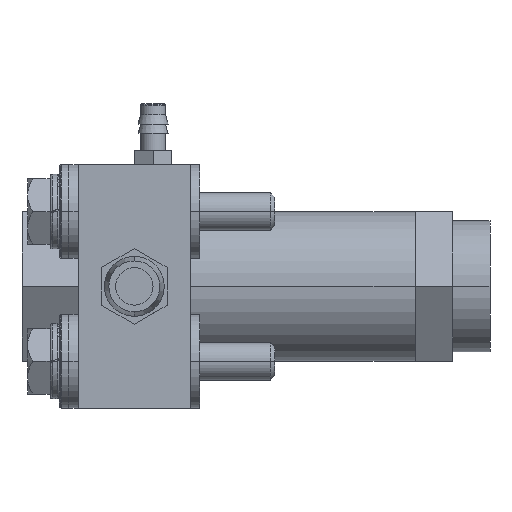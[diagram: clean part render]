
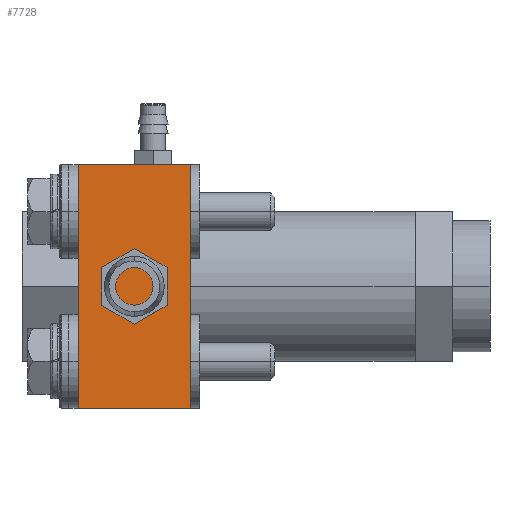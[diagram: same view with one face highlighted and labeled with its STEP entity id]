
A CAD part, front view. The second image highlights one B-rep face of the part: STEP entity #7728.
In plain terms, the highlighted planar face has unit normal (0, -1, 0).
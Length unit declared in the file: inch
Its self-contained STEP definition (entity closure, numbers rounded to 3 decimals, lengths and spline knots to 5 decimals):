
#7325=DIRECTION('',(0.,0.,-1.));
#7326=VECTOR('',#7325,1.625);
#7327=CARTESIAN_POINT('',(-2.,-1.25,0.8125));
#7328=LINE('',#7327,#7326);
#7433=DIRECTION('',(1.,0.,0.));
#7434=VECTOR('',#7433,0.75);
#7435=CARTESIAN_POINT('',(-2.75,-1.25,-0.8125));
#7436=LINE('',#7435,#7434);
#7437=DIRECTION('',(0.,0.,-1.));
#7438=VECTOR('',#7437,1.625);
#7439=CARTESIAN_POINT('',(-2.75,-1.25,0.8125));
#7440=LINE('',#7439,#7438);
#7441=DIRECTION('',(-1.,0.,0.));
#7442=VECTOR('',#7441,0.75);
#7443=CARTESIAN_POINT('',(-2.,-1.25,0.8125));
#7444=LINE('',#7443,#7442);
#7445=CARTESIAN_POINT('',(-2.,-1.25,0.8125));
#7446=CARTESIAN_POINT('',(-2.,-1.25,-0.8125));
#7447=VERTEX_POINT('',#7445);
#7448=VERTEX_POINT('',#7446);
#7451=CARTESIAN_POINT('',(-2.75,-1.25,0.8125));
#7452=VERTEX_POINT('',#7451);
#7453=CARTESIAN_POINT('',(-2.75,-1.25,-0.8125));
#7454=VERTEX_POINT('',#7453);
#7717=CARTESIAN_POINT('',(-2.75,-1.25,-0.8125));
#7718=DIRECTION('',(0.,-1.,0.));
#7719=DIRECTION('',(-1.,0.,0.));
#7720=AXIS2_PLACEMENT_3D('',#7717,#7718,#7719);
#7721=PLANE('',#7720);
#7722=ORIENTED_EDGE('',*,*,#7514,.T.);
#7723=ORIENTED_EDGE('',*,*,#7686,.F.);
#7724=ORIENTED_EDGE('',*,*,#7572,.F.);
#7725=ORIENTED_EDGE('',*,*,#7710,.F.);
#7726=EDGE_LOOP('',(#7722,#7723,#7724,#7725));
#7727=FACE_OUTER_BOUND('',#7726,.F.);
#7514=EDGE_CURVE('',#7447,#7448,#7328,.T.);
#7572=EDGE_CURVE('',#7452,#7454,#7440,.T.);
#7686=EDGE_CURVE('',#7454,#7448,#7436,.T.);
#7710=EDGE_CURVE('',#7447,#7452,#7444,.T.);
#7728=ADVANCED_FACE('',(#7727),#7721,.T.);
